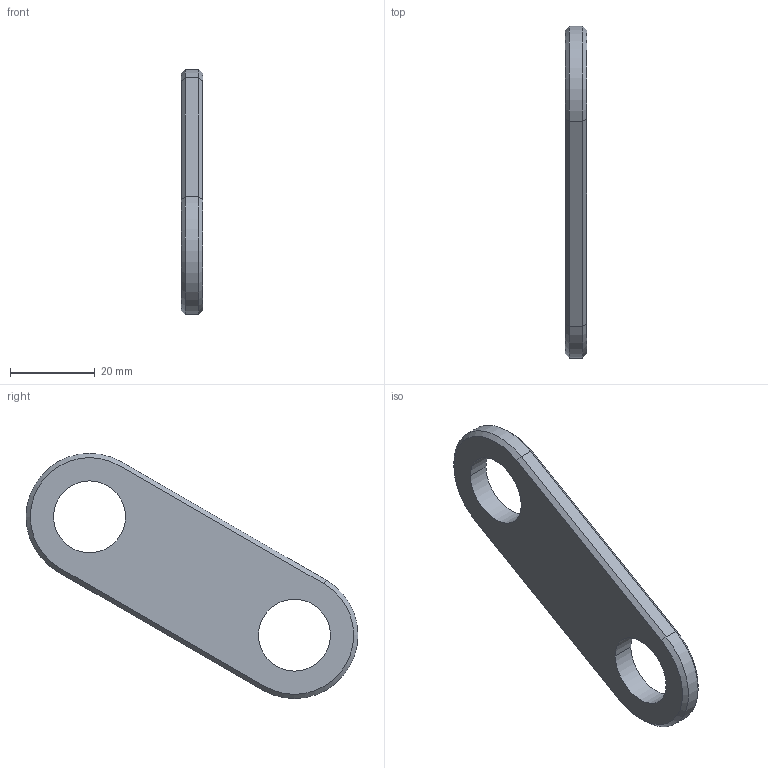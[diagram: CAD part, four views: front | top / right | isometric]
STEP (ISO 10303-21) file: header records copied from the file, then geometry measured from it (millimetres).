
FILE_DESCRIPTION(('CATIA V5 STEP Exchange','CAx-IF Rec.Pracs.--- Model Styling and Organization---1.2---2011-12-15'),'2;1');
FILE_NAME('X:\Projects\INTERIORS\VEMINA\IL-96-026_027\2.WORK_DATA\01.USERS\dmitriy.khorkov\02 OUT DATA\Пак 5_Листовые детали\STP\V.9626.7522.810.051-01.stp','2025-07-03T04:51:16+00:00',('none'),('none'),'CATIA Version 5-6 Release 2013 SP6 HF12','CATIA V5 STEP AP214','none');
FILE_SCHEMA(('AUTOMOTIVE_DESIGN { 1 0 10303 214 1 1 1 1 }'));
Length unit declared in the file: millimetre
Products named in the file (1): V.9626.7522.810.051-01
Bounding box: 5.2 x 78.45 x 57.97 mm (x, y, z)
Volume: 9838.4 mm3; surface area: 5245.7 mm2
Topology: 1 solids, 1 shells, 18 faces, 40 edges, 24 vertices
Faces by surface type: plane 8, cylinder 6, cone 4
Entity records: 499 total; most frequent: CARTESIAN_POINT 81, ORIENTED_EDGE 80, DIRECTION 72, EDGE_CURVE 40, AXIS2_PLACEMENT_3D 33, VECTOR 24, LINE 24, VERTEX_POINT 24
